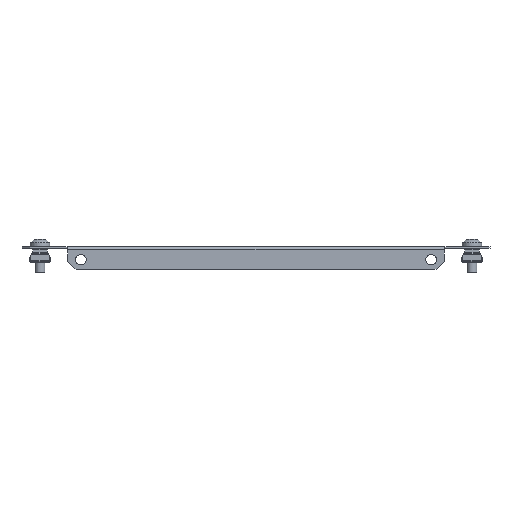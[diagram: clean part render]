
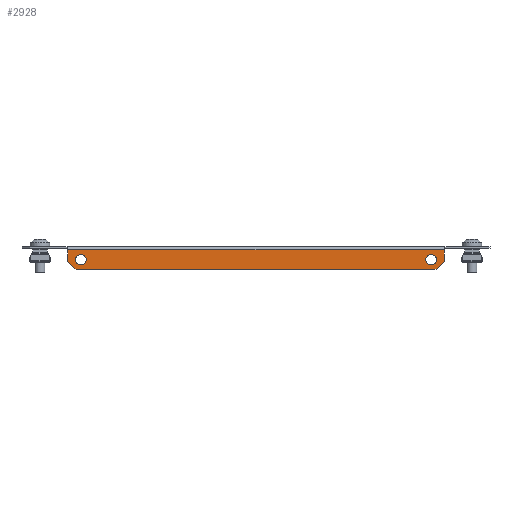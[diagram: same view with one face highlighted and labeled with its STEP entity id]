
A CAD part, front view. The second image highlights one B-rep face of the part: STEP entity #2928.
In plain terms, the highlighted planar face has unit normal (0, -1, 0).
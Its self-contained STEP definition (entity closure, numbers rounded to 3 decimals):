
#6 = EDGE_CURVE ( 'NONE', #2936, #2936, #1596, .T. ) ;
#66 = CARTESIAN_POINT ( 'NONE',  ( 0., -99.5, -14. ) ) ;
#68 = LINE ( 'NONE', #5436, #7109 ) ;
#295 = EDGE_CURVE ( 'NONE', #3365, #3533, #4199, .T. ) ;
#349 = VECTOR ( 'NONE', #4926, 1000. ) ;
#351 = ORIENTED_EDGE ( 'NONE', *, *, #2153, .T. ) ;
#511 = FACE_OUTER_BOUND ( 'NONE', #5893, .T. ) ;
#699 = ORIENTED_EDGE ( 'NONE', *, *, #4228, .T. ) ;
#785 = DIRECTION ( 'NONE',  ( 0., 1., 0. ) ) ;
#933 = VERTEX_POINT ( 'NONE', #3764 ) ;
#1111 = CARTESIAN_POINT ( 'NONE',  ( 115., -99.5, 0. ) ) ;
#1233 = ORIENTED_EDGE ( 'NONE', *, *, #6535, .T. ) ;
#1293 = LINE ( 'NONE', #4792, #6235 ) ;
#1596 = CIRCLE ( 'NONE', #2816, 3.25 ) ;
#1621 = FACE_BOUND ( 'NONE', #5432, .T. ) ;
#1628 = EDGE_CURVE ( 'NONE', #2653, #2387, #68, .T. ) ;
#1673 = LINE ( 'NONE', #1111, #3998 ) ;
#1727 = VECTOR ( 'NONE', #4164, 1000. ) ;
#1872 = VERTEX_POINT ( 'NONE', #1910 ) ;
#1910 = CARTESIAN_POINT ( 'NONE',  ( 107., -99.5, -4.75 ) ) ;
#1927 = ORIENTED_EDGE ( 'NONE', *, *, #1628, .T. ) ;
#2153 = EDGE_CURVE ( 'NONE', #2387, #3979, #1293, .T. ) ;
#2269 = CARTESIAN_POINT ( 'NONE',  ( 0., -99.5, 0. ) ) ;
#2387 = VERTEX_POINT ( 'NONE', #6818 ) ;
#2531 = AXIS2_PLACEMENT_3D ( 'NONE', #2269, #4579, #4102 ) ;
#2533 = LINE ( 'NONE', #7159, #349 ) ;
#2565 = CARTESIAN_POINT ( 'NONE',  ( 110., -99.5, -14. ) ) ;
#2653 = VERTEX_POINT ( 'NONE', #5460 ) ;
#2673 = DIRECTION ( 'NONE',  ( 0., -1., 0. ) ) ;
#2697 = CARTESIAN_POINT ( 'NONE',  ( -115., -99.5, -9. ) ) ;
#2712 = DIRECTION ( 'NONE',  ( 0., 0., 1. ) ) ;
#2816 = AXIS2_PLACEMENT_3D ( 'NONE', #4733, #785, #4772 ) ;
#2848 = PLANE ( 'NONE',  #2531 ) ;
#2928 = ADVANCED_FACE ( 'NONE', ( #1621, #5720, #511 ), #2848, .T. ) ;
#2936 = VERTEX_POINT ( 'NONE', #5247 ) ;
#3365 = VERTEX_POINT ( 'NONE', #4096 ) ;
#3533 = VERTEX_POINT ( 'NONE', #2565 ) ;
#3764 = CARTESIAN_POINT ( 'NONE',  ( 115., -99.5, -9. ) ) ;
#3807 = EDGE_CURVE ( 'NONE', #933, #2653, #1673, .T. ) ;
#3979 = VERTEX_POINT ( 'NONE', #2697 ) ;
#3998 = VECTOR ( 'NONE', #5961, 1000. ) ;
#4096 = CARTESIAN_POINT ( 'NONE',  ( -110., -99.5, -14. ) ) ;
#4102 = DIRECTION ( 'NONE',  ( 0., 0., 1. ) ) ;
#4164 = DIRECTION ( 'NONE',  ( 1., 0., 0. ) ) ;
#4199 = LINE ( 'NONE', #66, #1727 ) ;
#4228 = EDGE_CURVE ( 'NONE', #3533, #933, #2533, .T. ) ;
#4484 = DIRECTION ( 'NONE',  ( 0.707, 0., -0.707 ) ) ;
#4579 = DIRECTION ( 'NONE',  ( 0., -1., 0. ) ) ;
#4733 = CARTESIAN_POINT ( 'NONE',  ( -107., -99.5, -8. ) ) ;
#4735 = ORIENTED_EDGE ( 'NONE', *, *, #295, .T. ) ;
#4772 = DIRECTION ( 'NONE',  ( 0., 0., 1. ) ) ;
#4792 = CARTESIAN_POINT ( 'NONE',  ( -115., -99.5, 0. ) ) ;
#4831 = EDGE_LOOP ( 'NONE', ( #6472 ) ) ;
#4926 = DIRECTION ( 'NONE',  ( 0.707, 0., 0.707 ) ) ;
#5247 = CARTESIAN_POINT ( 'NONE',  ( -107., -99.5, -4.75 ) ) ;
#5248 = ORIENTED_EDGE ( 'NONE', *, *, #7495, .F. ) ;
#5432 = EDGE_LOOP ( 'NONE', ( #5248 ) ) ;
#5436 = CARTESIAN_POINT ( 'NONE',  ( 0., -99.5, -2. ) ) ;
#5460 = CARTESIAN_POINT ( 'NONE',  ( 115., -99.5, -2. ) ) ;
#5550 = CARTESIAN_POINT ( 'NONE',  ( 107., -99.5, -8. ) ) ;
#5720 = FACE_BOUND ( 'NONE', #4831, .T. ) ;
#5893 = EDGE_LOOP ( 'NONE', ( #4735, #699, #6052, #1927, #351, #1233 ) ) ;
#5961 = DIRECTION ( 'NONE',  ( 0., 0., 1. ) ) ;
#6052 = ORIENTED_EDGE ( 'NONE', *, *, #3807, .T. ) ;
#6235 = VECTOR ( 'NONE', #7136, 1000. ) ;
#6317 = VECTOR ( 'NONE', #4484, 1000. ) ;
#6472 = ORIENTED_EDGE ( 'NONE', *, *, #6, .T. ) ;
#6527 = DIRECTION ( 'NONE',  ( -1., 0., 0. ) ) ;
#6535 = EDGE_CURVE ( 'NONE', #3979, #3365, #7440, .T. ) ;
#6590 = AXIS2_PLACEMENT_3D ( 'NONE', #5550, #2673, #2712 ) ;
#6818 = CARTESIAN_POINT ( 'NONE',  ( -115., -99.5, -2. ) ) ;
#7109 = VECTOR ( 'NONE', #6527, 1000. ) ;
#7136 = DIRECTION ( 'NONE',  ( 0., 0., -1. ) ) ;
#7159 = CARTESIAN_POINT ( 'NONE',  ( 62., -99.5, -62. ) ) ;
#7368 = CARTESIAN_POINT ( 'NONE',  ( -62., -99.5, -62. ) ) ;
#7440 = LINE ( 'NONE', #7368, #6317 ) ;
#7443 = CIRCLE ( 'NONE', #6590, 3.25 ) ;
#7495 = EDGE_CURVE ( 'NONE', #1872, #1872, #7443, .T. ) ;
